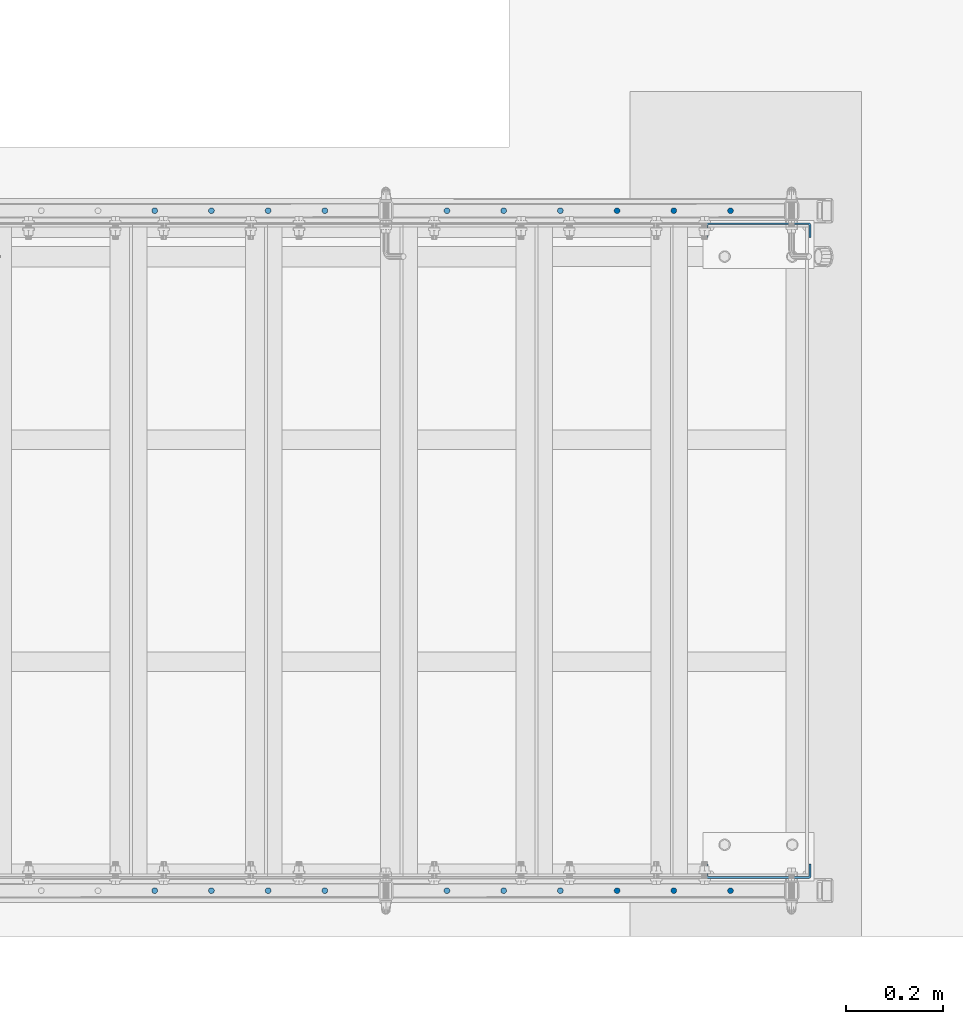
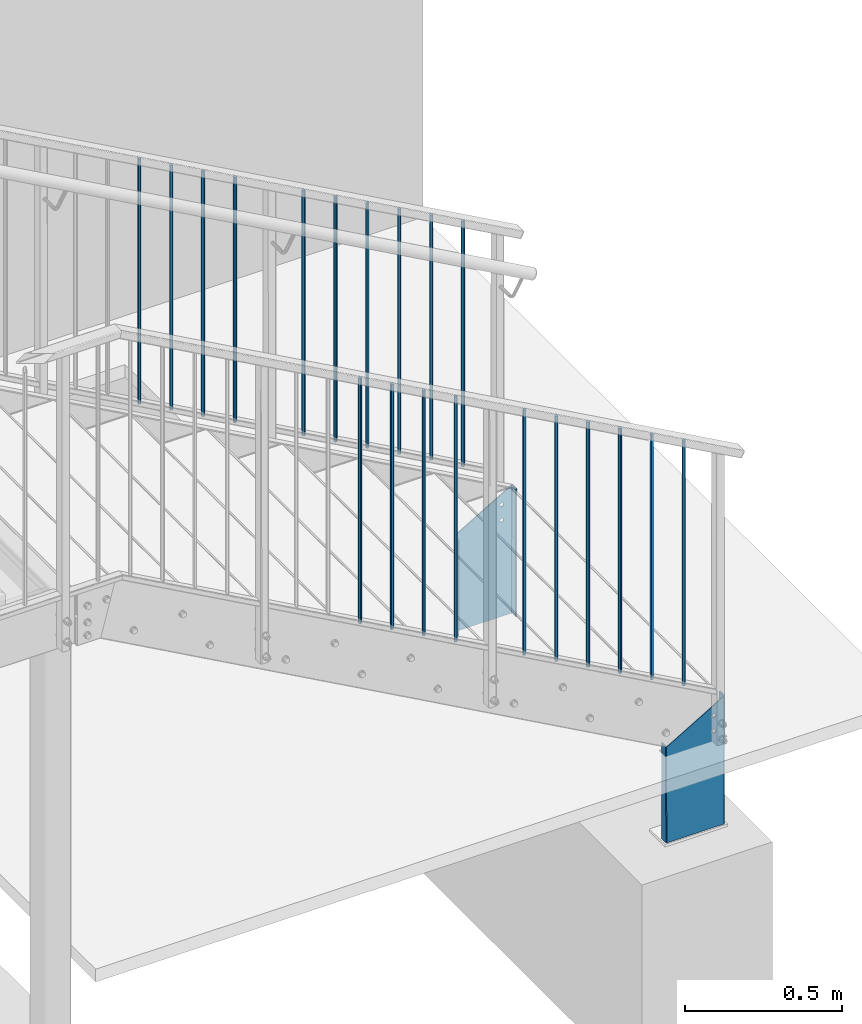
# One storey, part 7 of 116: 22 columns, 4 openings.
"""IFC2X3 building model written with IfcOpenShell, lengths in millimetres."""

from ifc_helpers import new_model, entity, si_unit, converted_unit, point, frame, frame_2d, origin, origin_with_axes, origin_2d, origin_2d_with_axis, place, context, project, spatial, circle_curve, line_curve, trimmed, segment, composite_curve, circle, outline, extrude, clip, halfspace, material, element, save


model = new_model("IFC2X3")

# Units and contexts
model_context = context("Model", 3, precision=1e-09, world=origin_with_axes())
ifc_project = project(units=[si_unit("LENGTHUNIT", "METRE", prefix="MILLI"), si_unit("AREAUNIT", "SQUARE_METRE"), si_unit("VOLUMEUNIT", "CUBIC_METRE"), converted_unit("PLANEANGLEUNIT", "DEGREE", entity("IfcPlaneAngleMeasure", 0.01745329), si_unit("PLANEANGLEUNIT", "RADIAN"), dimensions=[0, 0, 0, 0, 0, 0, 0])], contexts=[model_context])

# Site, building, storey
site_placement = place(None, origin_with_axes())
site = spatial("IfcSite", under=ifc_project, at=site_placement, Name="Site", CompositionType="ELEMENT")
building_placement = place(site_placement, origin_with_axes())
building = spatial("IfcBuilding", under=site, at=building_placement, Name="Struktur 1", CompositionType="ELEMENT")
storey_placement = place(building_placement, origin_with_axes())
storey = spatial("IfcBuildingStorey", under=building, at=storey_placement, Name="Default Storey", CompositionType="ELEMENT", Elevation=0.0)

# Column, openings
ifc_material = material(Name="S235JR")
column_1_placement = place(None, frame((60508.549134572, 9087.358883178, -1742.0), z_axis=(0.0, 0.0, 1.0), x_axis=(0.0, 1.0, 0.0)))
column_1 = element("IfcColumn", 1, at=column_1_placement, inside=storey, material=ifc_material, Name="-", ObjectType="-", context=model_context, shape_type="Clipping", body=[
    clip(extrude(outline(composite_curve([segment(trimmed(line_curve((15.0, 108.5), (-1.0, 0.0), 25.0), [point((15.0, 108.5))], [point((-10.0, 108.5))], True, "CARTESIAN"), True, "CONTINUOUS"), segment(trimmed(circle_curve(frame_2d((-9.999999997, 103.499999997), x_axis=(1.0, 0.0)), 5.000000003), [point((-10.0, 108.5))], [point((-15.0, 103.5))], True, "CARTESIAN"), True, "CONTINUOUS"), segment(trimmed(line_curve((-15.0, 103.5), (0.0, -1.0), 207.0), [point((-15.0, 103.5))], [point((-15.0, -103.5))], True, "CARTESIAN"), True, "CONTINUOUS"), segment(trimmed(circle_curve(frame_2d((-9.999999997, -103.499999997), x_axis=(1.0, 0.0)), 5.000000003), [point((-15.0, -103.5))], [point((-10.0, -108.5))], True, "CARTESIAN"), True, "CONTINUOUS"), segment(trimmed(line_curve((-10.0, -108.5), (1.0, 0.0), 25.0), [point((-10.0, -108.5))], [point((15.0, -108.5))], True, "CARTESIAN"), True, "CONTINUOUS"), segment(trimmed(line_curve((15.0, -108.5), (0.0, 1.0), 4.0), [point((15.0, -108.5))], [point((15.0, -104.5))], True, "CARTESIAN"), True, "CONTINUOUS"), segment(trimmed(line_curve((15.0, -104.5), (-1.0, 0.0), 25.0), [point((15.0, -104.5))], [point((-10.0, -104.5))], True, "CARTESIAN"), True, "CONTINUOUS"), segment(trimmed(circle_curve(frame_2d((-9.999999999, -103.499999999), x_axis=(-1.0, 0.0)), 1.000000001), [point((-10.0, -104.5))], [point((-11.0, -103.5))], False, "CARTESIAN"), True, "CONTINUOUS"), segment(trimmed(line_curve((-11.0, -103.5), (0.0, 1.0), 207.0), [point((-11.0, -103.5))], [point((-11.0, 103.5))], True, "CARTESIAN"), True, "CONTINUOUS"), segment(trimmed(circle_curve(frame_2d((-9.999999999, 103.499999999), x_axis=(-1.0, 0.0)), 1.000000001), [point((-11.0, 103.5))], [point((-10.0, 104.5))], False, "CARTESIAN"), True, "CONTINUOUS"), segment(trimmed(line_curve((-10.0, 104.5), (1.0, 0.0), 25.0), [point((-10.0, 104.5))], [point((15.0, 104.5))], True, "CARTESIAN"), True, "CONTINUOUS"), segment(trimmed(line_curve((15.0, 104.5), (0.0, 1.0), 4.0), [point((15.0, 104.5))], [point((15.0, 108.5))], True, "CARTESIAN"), True, "CONTINUOUS")], self_intersect=False)), origin(), (0.0, 0.0, 1.0), 753.035378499), halfspace(frame((-9087.358883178, 44335.592086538, -25696.522554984), z_axis=(0.0, -0.507781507, -0.861485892), x_axis=(1.0, 0.0, 0.0)), True)),
])
opening_1_placement = place(column_1_placement, frame((-15.5, -61.499, 374.0), z_axis=(-1.0, 0.0, 0.0), x_axis=(0.0, -1.0, 0.0)))
element("IfcOpeningElement", 2, at=opening_1_placement, cuts=column_1, ObjectType="Opening", context=model_context, shape_type="SweptSolid", body=[
    extrude(circle(Radius=7.001, at=frame_2d((7.001, 0.0), x_axis=(1.0, 0.0))), origin(), (0.0, 0.0, -1.0), 5.0),
])
opening_2_placement = place(column_1_placement, frame((-15.5, -61.499, 434.0), z_axis=(-1.0, 0.0, 0.0), x_axis=(0.0, -1.0, 0.0)))
element("IfcOpeningElement", 3, at=opening_2_placement, cuts=column_1, ObjectType="Opening", context=model_context, shape_type="SweptSolid", body=[
    extrude(circle(Radius=7.001, at=frame_2d((7.001, 0.0), x_axis=(1.0, 0.0))), origin(), (0.0, 0.0, -1.0), 5.0),
])

column_2_placement = place(None, frame((60508.549134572, 10415.358883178, -1742.0), z_axis=(0.0, 0.0, -1.0), x_axis=(0.0, -1.0, 0.0)))
column_2 = element("IfcColumn", 4, at=column_2_placement, inside=storey, material=ifc_material, Name="-", ObjectType="-", context=model_context, shape_type="Clipping", body=[
    clip(extrude(outline(composite_curve([segment(trimmed(line_curve((15.0, 108.5), (-1.0, 0.0), 25.0), [point((15.0, 108.5))], [point((-10.0, 108.5))], True, "CARTESIAN"), True, "CONTINUOUS"), segment(trimmed(circle_curve(frame_2d((-9.999999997, 103.499999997), x_axis=(1.0, 0.0)), 5.000000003), [point((-10.0, 108.5))], [point((-15.0, 103.5))], True, "CARTESIAN"), True, "CONTINUOUS"), segment(trimmed(line_curve((-15.0, 103.5), (0.0, -1.0), 207.0), [point((-15.0, 103.5))], [point((-15.0, -103.5))], True, "CARTESIAN"), True, "CONTINUOUS"), segment(trimmed(circle_curve(frame_2d((-9.999999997, -103.499999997), x_axis=(1.0, 0.0)), 5.000000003), [point((-15.0, -103.5))], [point((-10.0, -108.5))], True, "CARTESIAN"), True, "CONTINUOUS"), segment(trimmed(line_curve((-10.0, -108.5), (1.0, 0.0), 25.0), [point((-10.0, -108.5))], [point((15.0, -108.5))], True, "CARTESIAN"), True, "CONTINUOUS"), segment(trimmed(line_curve((15.0, -108.5), (0.0, 1.0), 4.0), [point((15.0, -108.5))], [point((15.0, -104.5))], True, "CARTESIAN"), True, "CONTINUOUS"), segment(trimmed(line_curve((15.0, -104.5), (-1.0, 0.0), 25.0), [point((15.0, -104.5))], [point((-10.0, -104.5))], True, "CARTESIAN"), True, "CONTINUOUS"), segment(trimmed(circle_curve(frame_2d((-9.999999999, -103.499999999), x_axis=(-1.0, 0.0)), 1.000000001), [point((-10.0, -104.5))], [point((-11.0, -103.5))], False, "CARTESIAN"), True, "CONTINUOUS"), segment(trimmed(line_curve((-11.0, -103.5), (0.0, 1.0), 207.0), [point((-11.0, -103.5))], [point((-11.0, 103.5))], True, "CARTESIAN"), True, "CONTINUOUS"), segment(trimmed(circle_curve(frame_2d((-9.999999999, 103.499999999), x_axis=(-1.0, 0.0)), 1.000000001), [point((-11.0, 103.5))], [point((-10.0, 104.5))], False, "CARTESIAN"), True, "CONTINUOUS"), segment(trimmed(line_curve((-10.0, 104.5), (1.0, 0.0), 25.0), [point((-10.0, 104.5))], [point((15.0, 104.5))], True, "CARTESIAN"), True, "CONTINUOUS"), segment(trimmed(line_curve((15.0, 104.5), (0.0, 1.0), 4.0), [point((15.0, 104.5))], [point((15.0, 108.5))], True, "CARTESIAN"), True, "CONTINUOUS")], self_intersect=False)), origin(), (0.0, 0.0, -1.0), 753.035378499), halfspace(frame((10415.358883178, 44335.592086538, 25696.522554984), z_axis=(0.0, -0.507781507, 0.861485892), x_axis=(-1.0, 0.0, 0.0)), True)),
])
opening_3_placement = place(column_2_placement, frame((-15.5, -68.5, -374.0), z_axis=(1.0, 0.0, 0.0), x_axis=(0.0, -1.0, 0.0)))
element("IfcOpeningElement", 5, at=opening_3_placement, cuts=column_2, ObjectType="Opening", context=model_context, shape_type="SweptSolid", body=[
    extrude(circle(Radius=7.001, at=origin_2d_with_axis()), origin(), (0.0, 0.0, 1.0), 5.0),
])
opening_4_placement = place(column_2_placement, frame((-15.5, -68.5, -434.0), z_axis=(1.0, 0.0, 0.0), x_axis=(0.0, -1.0, 0.0)))
element("IfcOpeningElement", 6, at=opening_4_placement, cuts=column_2, ObjectType="Opening", context=model_context, shape_type="SweptSolid", body=[
    extrude(circle(Radius=7.001, at=origin_2d_with_axis()), origin(), (0.0, 0.0, 1.0), 5.0),
])

# Columns
for number, where, z_axis, x_axis in (
    (7, (59258.334848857, 10455.357883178, -468.902516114), (0.0, 0.0, 1.0), (1.0, 0.0, 0.0)),
    (8, (59375.763420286, 10455.357883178, -533.907618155), (0.0, 0.0, 1.0), (1.0, 0.0, 0.0)),
    (9, (59493.191991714, 10455.357883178, -598.912720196), (0.0, 0.0, 1.0), (1.0, 0.0, 0.0)),
    (10, (59610.620563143, 10455.357883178, -663.917822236), (0.0, 0.0, 1.0), (1.0, 0.0, 0.0)),
    (11, (60450.620563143, 10455.357883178, -1128.917822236), (0.0, 0.0, 1.0), (1.0, 0.0, 0.0)),
    (12, (60333.191991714, 10455.357883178, -1063.912720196), (0.0, 0.0, 1.0), (1.0, 0.0, 0.0)),
    (13, (60215.763420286, 10455.357883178, -998.907618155), (0.0, 0.0, 1.0), (1.0, 0.0, 0.0)),
    (14, (60098.334848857, 10455.357883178, -933.902516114), (0.0, 0.0, 1.0), (1.0, 0.0, 0.0)),
    (15, (59980.906277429, 10455.357883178, -868.897414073), (0.0, 0.0, 1.0), (1.0, 0.0, 0.0)),
    (16, (59863.477706, 10455.357883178, -803.892312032), (0.0, 0.0, 1.0), (1.0, 0.0, 0.0)),
    (17, (60450.620563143, 9047.359883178, -1128.917822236), (0.0, 0.0, 1.0), (1.0, 0.0, 0.0)),
    (18, (60333.191991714, 9047.359883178, -1063.912720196), (0.0, 0.0, 1.0), (1.0, 0.0, 0.0)),
    (19, (60215.763420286, 9047.359883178, -998.907618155), (0.0, 0.0, 1.0), (1.0, 0.0, 0.0)),
    (20, (60098.334848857, 9047.359883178, -933.902516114), (0.0, 0.0, 1.0), (1.0, 0.0, 0.0)),
    (21, (59980.906277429, 9047.359883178, -868.897414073), (0.0, 0.0, 1.0), (1.0, 0.0, 0.0)),
    (22, (59863.477706, 9047.359883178, -803.892312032), (0.0, 0.0, 1.0), (1.0, 0.0, 0.0)),
    (23, (59610.620563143, 9047.359883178, -663.917822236), (0.0, 0.0, 1.0), (1.0, 0.0, 0.0)),
    (24, (59493.191991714, 9047.359883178, -598.912720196), (0.0, 0.0, 1.0), (1.0, 0.0, 0.0)),
    (25, (59375.763420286, 9047.359883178, -533.907618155), (0.0, 0.0, 1.0), (1.0, 0.0, 0.0)),
    (26, (59258.334848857, 9047.359883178, -468.902516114), (0.0, 0.0, 1.0), (1.0, 0.0, 0.0)),
):
    element("IfcColumn", number, at=place(None, frame(where, z_axis=z_axis, x_axis=x_axis)), inside=storey, material=ifc_material, Name="-", ObjectType="-", context=model_context, shape_type="SweptSolid", body=[
        extrude(circle(Radius=6.0, at=origin_2d()), origin(), (0.0, 0.0, 1.0), 955.0),
    ])

save(model, "model.ifc")
